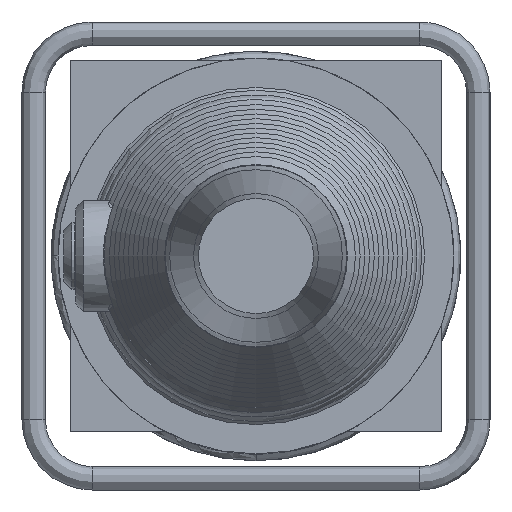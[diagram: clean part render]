
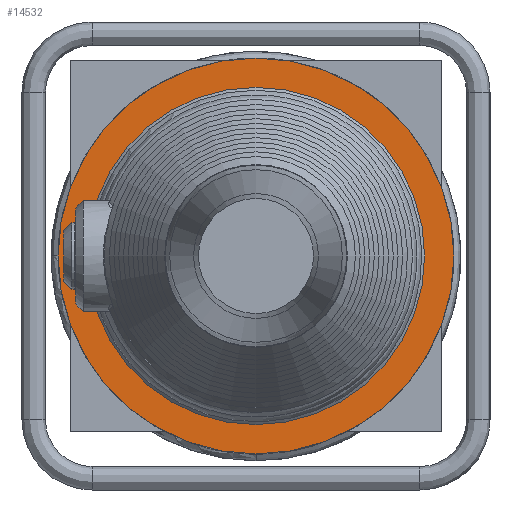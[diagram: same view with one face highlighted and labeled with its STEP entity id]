
A CAD part, left-side view. The second image highlights one B-rep face of the part: STEP entity #14532.
In plain terms, the highlighted planar face has unit normal (-1, 0, 0).
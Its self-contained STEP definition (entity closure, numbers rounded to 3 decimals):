
#1435=PLANE('',#15376);
#3504=FACE_BOUND('',#5265,.T.);
#4313=FACE_OUTER_BOUND('',#5264,.T.);
#5264=EDGE_LOOP('',(#13217));
#5265=EDGE_LOOP('',(#13218));
#5677=CIRCLE('',#15309,101.5);
#5699=CIRCLE('',#15377,86.466);
#7091=VERTEX_POINT('',#31081);
#7123=VERTEX_POINT('',#33203);
#9129=EDGE_CURVE('',#7091,#7091,#5677,.T.);
#9176=EDGE_CURVE('',#7123,#7123,#5699,.T.);
#13217=ORIENTED_EDGE('',*,*,#9129,.F.);
#13218=ORIENTED_EDGE('',*,*,#9176,.T.);
#14532=ADVANCED_FACE('',(#4313,#3504),#1435,.T.);
#15309=AXIS2_PLACEMENT_3D('',#31082,#17791,#17792);
#15376=AXIS2_PLACEMENT_3D('',#33202,#17949,#17950);
#15377=AXIS2_PLACEMENT_3D('',#33204,#17951,#17952);
#17791=DIRECTION('center_axis',(1.,0.,0.));
#17792=DIRECTION('ref_axis',(0.,0.,
1.));
#17949=DIRECTION('center_axis',(-1.,0.,0.));
#17950=DIRECTION('ref_axis',(0.,1.,0.));
#17951=DIRECTION('center_axis',(1.,0.,0.));
#17952=DIRECTION('ref_axis',(0.,0.,
1.));
#31081=CARTESIAN_POINT('',(-345.651,0.,101.5));
#31082=CARTESIAN_POINT('Origin',(-345.651,0.,
0.));
#33202=CARTESIAN_POINT('Origin',(-345.651,0.,
93.983));
#33203=CARTESIAN_POINT('',(-345.651,0.,86.466));
#33204=CARTESIAN_POINT('Origin',(-345.651,0.,
0.));
